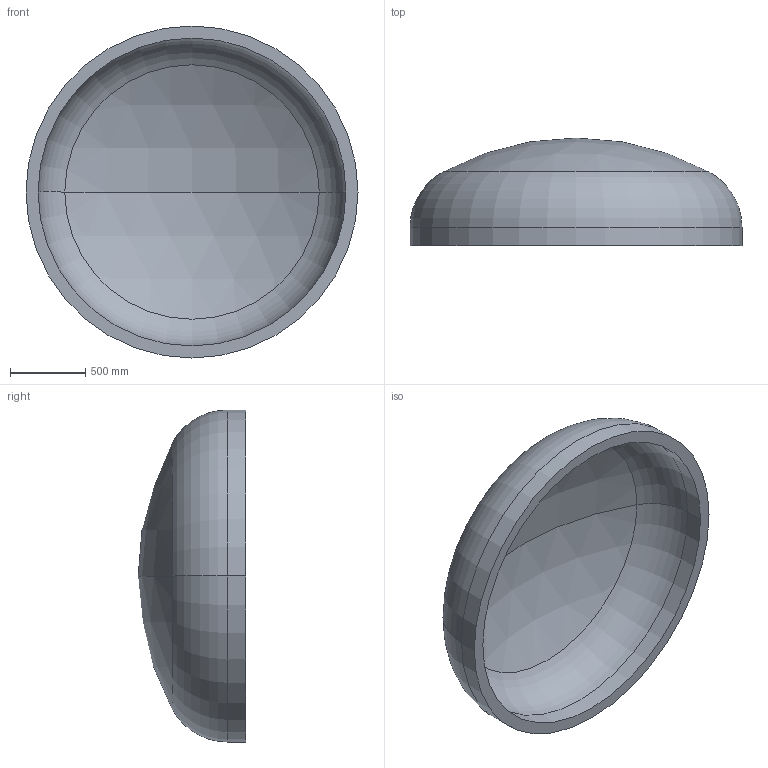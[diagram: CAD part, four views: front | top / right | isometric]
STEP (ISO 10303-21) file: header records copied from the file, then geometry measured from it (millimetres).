
FILE_DESCRIPTION (( 'STEP AP203' ), '1' );
FILE_NAME ('DIN 28013 Korbbogenform_-_Boden DIN 28013 - 2200 x 120 - I - s=80.step', '2016-07-01T14:48:49', ( '' ), ( '' ), 'SwSTEP 2.0', 'SolidWorks 2013', '' );
FILE_SCHEMA (( 'CONFIG_CONTROL_DESIGN' ));
Length unit declared in the file: millimetre
Products named in the file (1): DIN 28013 Korbbogenform_-_Boden DIN 28013 - 2200 x 120 - I - s=80
Bounding box: 2200 x 713.4 x 2200 mm (x, y, z)
Volume: 465966789.3 mm3; surface area: 12195384.6 mm2
Topology: 1 solids, 1 shells, 13 faces, 24 edges, 14 vertices
Faces by surface type: torus 4, cylinder 4, sphere 4, plane 1
Entity records: 407 total; most frequent: DIRECTION 72, CARTESIAN_POINT 52, ORIENTED_EDGE 48, AXIS2_PLACEMENT_3D 34, EDGE_CURVE 24, CIRCLE 20, VERTEX_POINT 14, EDGE_LOOP 14
